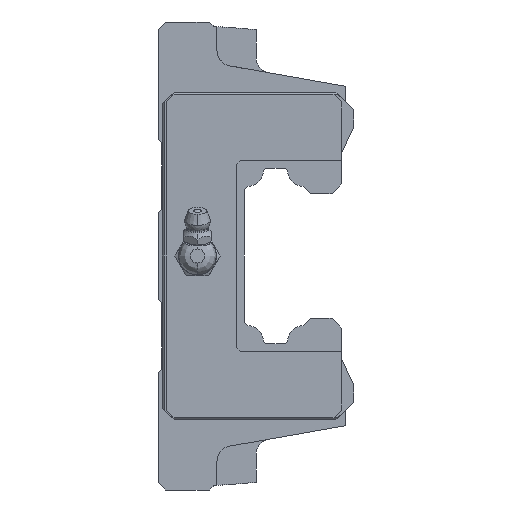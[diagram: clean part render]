
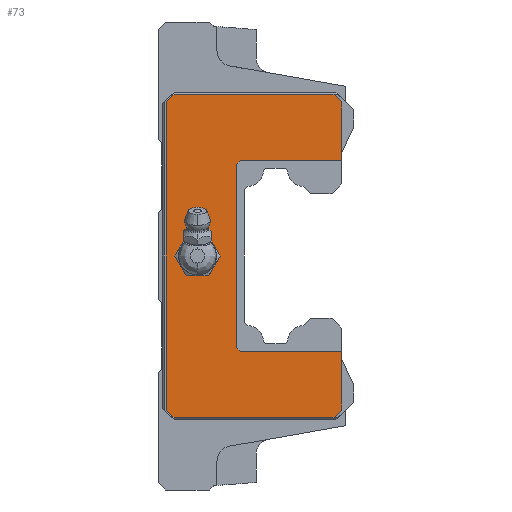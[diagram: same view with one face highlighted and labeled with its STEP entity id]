
A CAD part, left-side view. The second image highlights one B-rep face of the part: STEP entity #73.
In plain terms, the highlighted planar face has unit normal (-1, 0, 0).
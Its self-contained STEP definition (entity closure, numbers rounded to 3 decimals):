
#32 = VERTEX_POINT ( 'NONE', #1576 ) ;
#63 = ORIENTED_EDGE ( 'NONE', *, *, #7303, .T. ) ;
#73 = ADVANCED_FACE ( 'NONE', ( #6264, #7542 ), #3430, .F. ) ;
#134 = CARTESIAN_POINT ( 'NONE',  ( -83.9, 13., 39.5 ) ) ;
#135 = CARTESIAN_POINT ( 'NONE',  ( -83.9, 39., -24.5 ) ) ;
#157 = VERTEX_POINT ( 'NONE', #4794 ) ;
#191 = VERTEX_POINT ( 'NONE', #1657 ) ;
#228 = DIRECTION ( 'NONE',  ( 0., 0., 1. ) ) ;
#293 = VERTEX_POINT ( 'NONE', #5721 ) ;
#340 = VECTOR ( 'NONE', #3112, 1000. ) ;
#352 = ORIENTED_EDGE ( 'NONE', *, *, #7467, .T. ) ;
#375 = VERTEX_POINT ( 'NONE', #618 ) ;
#461 = ORIENTED_EDGE ( 'NONE', *, *, #4361, .T. ) ;
#485 = CARTESIAN_POINT ( 'NONE',  ( -83.9, 58., -39.5 ) ) ;
#618 = CARTESIAN_POINT ( 'NONE',  ( -83.9, 15., -41.5 ) ) ;
#699 = DIRECTION ( 'NONE',  ( 1., 0., 0. ) ) ;
#776 = CARTESIAN_POINT ( 'NONE',  ( -83.9, 15., 41.5 ) ) ;
#804 = EDGE_CURVE ( 'NONE', #5656, #191, #6558, .T. ) ;
#806 = DIRECTION ( 'NONE',  ( 0., 0., -1. ) ) ;
#808 = VECTOR ( 'NONE', #6117, 1000. ) ;
#959 = DIRECTION ( 'NONE',  ( 0., -1., 0. ) ) ;
#1001 = VECTOR ( 'NONE', #6058, 1000. ) ;
#1026 = LINE ( 'NONE', #1587, #5138 ) ;
#1086 = ORIENTED_EDGE ( 'NONE', *, *, #6847, .T. ) ;
#1101 = CARTESIAN_POINT ( 'NONE',  ( -83.9, 15., 41.5 ) ) ;
#1251 = CARTESIAN_POINT ( 'NONE',  ( -83.9, 56., 41.5 ) ) ;
#1350 = ORIENTED_EDGE ( 'NONE', *, *, #3894, .T. ) ;
#1352 = DIRECTION ( 'NONE',  ( 0., 0., -1. ) ) ;
#1393 = LINE ( 'NONE', #134, #808 ) ;
#1411 = CARTESIAN_POINT ( 'NONE',  ( -83.9, 10., 0. ) ) ;
#1515 = AXIS2_PLACEMENT_3D ( 'NONE', #1411, #8160, #2190 ) ;
#1576 = CARTESIAN_POINT ( 'NONE',  ( -83.9, 58., -39.5 ) ) ;
#1587 = CARTESIAN_POINT ( 'NONE',  ( -83.9, 40., 23.5 ) ) ;
#1657 = CARTESIAN_POINT ( 'NONE',  ( -83.9, 40., 23.5 ) ) ;
#1686 = LINE ( 'NONE', #4296, #4986 ) ;
#1731 = DIRECTION ( 'NONE',  ( 0., 1., 0. ) ) ;
#1838 = VERTEX_POINT ( 'NONE', #8633 ) ;
#1866 = CARTESIAN_POINT ( 'NONE',  ( -83.9, 13., -39.5 ) ) ;
#2003 = EDGE_CURVE ( 'NONE', #2888, #1838, #1393, .T. ) ;
#2048 = EDGE_CURVE ( 'NONE', #5179, #293, #7593, .T. ) ;
#2190 = DIRECTION ( 'NONE',  ( 0., 1., 0. ) ) ;
#2318 = CARTESIAN_POINT ( 'NONE',  ( -83.9, 13., 39.5 ) ) ;
#2361 = EDGE_CURVE ( 'NONE', #32, #5865, #5392, .T. ) ;
#2375 = DIRECTION ( 'NONE',  ( 0., -1., 0. ) ) ;
#2506 = DIRECTION ( 'NONE',  ( 0., 0.707, -0.707 ) ) ;
#2645 = CARTESIAN_POINT ( 'NONE',  ( -83.9, 56., -41.5 ) ) ;
#2671 = ORIENTED_EDGE ( 'NONE', *, *, #804, .T. ) ;
#2752 = EDGE_CURVE ( 'NONE', #375, #4478, #6346, .T. ) ;
#2888 = VERTEX_POINT ( 'NONE', #7887 ) ;
#2937 = DIRECTION ( 'NONE',  ( 0., -0.707, 0.707 ) ) ;
#2968 = CARTESIAN_POINT ( 'NONE',  ( -83.9, 13., -24.5 ) ) ;
#3109 = VECTOR ( 'NONE', #228, 1000. ) ;
#3112 = DIRECTION ( 'NONE',  ( 0., 0., -1. ) ) ;
#3132 = ORIENTED_EDGE ( 'NONE', *, *, #2752, .T. ) ;
#3137 = CARTESIAN_POINT ( 'NONE',  ( -83.9, 56., -41.5 ) ) ;
#3428 = CIRCLE ( 'NONE', #5117, 4.864 ) ;
#3430 = PLANE ( 'NONE',  #1515 ) ;
#3441 = VECTOR ( 'NONE', #2375, 1000. ) ;
#3641 = CARTESIAN_POINT ( 'NONE',  ( -83.9, 13., -39.5 ) ) ;
#3663 = CARTESIAN_POINT ( 'NONE',  ( -83.9, 13., -24.5 ) ) ;
#3756 = VECTOR ( 'NONE', #5235, 1000. ) ;
#3778 = DIRECTION ( 'NONE',  ( 0., 0.707, 0.707 ) ) ;
#3894 = EDGE_CURVE ( 'NONE', #293, #5179, #3428, .T. ) ;
#3949 = VECTOR ( 'NONE', #2937, 1000. ) ;
#3958 = LINE ( 'NONE', #5256, #6821 ) ;
#4006 = EDGE_LOOP ( 'NONE', ( #7297, #1350 ) ) ;
#4037 = EDGE_LOOP ( 'NONE', ( #1086, #8519, #7934, #63, #7306, #7676, #5394, #5400, #6398, #3132, #4854, #461, #352, #2671 ) ) ;
#4075 = CARTESIAN_POINT ( 'NONE',  ( -83.9, 50., 0. ) ) ;
#4083 = DIRECTION ( 'NONE',  ( 0., 0.707, 0.707 ) ) ;
#4227 = LINE ( 'NONE', #6446, #3441 ) ;
#4296 = CARTESIAN_POINT ( 'NONE',  ( -83.9, 15., -41.5 ) ) ;
#4361 = EDGE_CURVE ( 'NONE', #8045, #7830, #8404, .T. ) ;
#4439 = CARTESIAN_POINT ( 'NONE',  ( -83.9, 40., -23.5 ) ) ;
#4469 = CARTESIAN_POINT ( 'NONE',  ( -83.9, 40., -23.5 ) ) ;
#4478 = VERTEX_POINT ( 'NONE', #1866 ) ;
#4594 = VERTEX_POINT ( 'NONE', #776 ) ;
#4595 = VERTEX_POINT ( 'NONE', #6861 ) ;
#4761 = DIRECTION ( 'NONE',  ( 1., 0., 0. ) ) ;
#4794 = CARTESIAN_POINT ( 'NONE',  ( -83.9, 58., 39.5 ) ) ;
#4841 = VECTOR ( 'NONE', #5706, 1000. ) ;
#4854 = ORIENTED_EDGE ( 'NONE', *, *, #8612, .T. ) ;
#4907 = AXIS2_PLACEMENT_3D ( 'NONE', #4075, #699, #1352 ) ;
#4930 = VERTEX_POINT ( 'NONE', #1251 ) ;
#4986 = VECTOR ( 'NONE', #959, 1000. ) ;
#5115 = EDGE_CURVE ( 'NONE', #4595, #2888, #4227, .T. ) ;
#5117 = AXIS2_PLACEMENT_3D ( 'NONE', #8123, #4761, #806 ) ;
#5138 = VECTOR ( 'NONE', #6319, 1000. ) ;
#5145 = VECTOR ( 'NONE', #3778, 1000. ) ;
#5179 = VERTEX_POINT ( 'NONE', #8386 ) ;
#5230 = EDGE_CURVE ( 'NONE', #4930, #157, #3958, .T. ) ;
#5235 = DIRECTION ( 'NONE',  ( 0., 0., 1. ) ) ;
#5256 = CARTESIAN_POINT ( 'NONE',  ( -83.9, 58., 39.5 ) ) ;
#5392 = LINE ( 'NONE', #2645, #1001 ) ;
#5394 = ORIENTED_EDGE ( 'NONE', *, *, #5577, .T. ) ;
#5400 = ORIENTED_EDGE ( 'NONE', *, *, #2361, .T. ) ;
#5458 = LINE ( 'NONE', #8061, #5712 ) ;
#5577 = EDGE_CURVE ( 'NONE', #157, #32, #7086, .T. ) ;
#5656 = VERTEX_POINT ( 'NONE', #4439 ) ;
#5706 = DIRECTION ( 'NONE',  ( 0., 1., 0. ) ) ;
#5712 = VECTOR ( 'NONE', #4083, 1000. ) ;
#5721 = CARTESIAN_POINT ( 'NONE',  ( -83.9, 50., -4.864 ) ) ;
#5799 = LINE ( 'NONE', #8449, #6551 ) ;
#5865 = VERTEX_POINT ( 'NONE', #3137 ) ;
#6058 = DIRECTION ( 'NONE',  ( 0., -0.707, -0.707 ) ) ;
#6117 = DIRECTION ( 'NONE',  ( 0., 0., 1. ) ) ;
#6212 = LINE ( 'NONE', #2318, #3109 ) ;
#6264 = FACE_OUTER_BOUND ( 'NONE', #4037, .T. ) ;
#6319 = DIRECTION ( 'NONE',  ( 0., -0.707, 0.707 ) ) ;
#6346 = LINE ( 'NONE', #3641, #3949 ) ;
#6398 = ORIENTED_EDGE ( 'NONE', *, *, #6641, .T. ) ;
#6446 = CARTESIAN_POINT ( 'NONE',  ( -83.9, 39., 24.5 ) ) ;
#6551 = VECTOR ( 'NONE', #1731, 1000. ) ;
#6558 = LINE ( 'NONE', #4469, #3756 ) ;
#6624 = EDGE_CURVE ( 'NONE', #4594, #4930, #5799, .T. ) ;
#6641 = EDGE_CURVE ( 'NONE', #5865, #375, #1686, .T. ) ;
#6821 = VECTOR ( 'NONE', #2506, 1000. ) ;
#6847 = EDGE_CURVE ( 'NONE', #191, #4595, #1026, .T. ) ;
#6861 = CARTESIAN_POINT ( 'NONE',  ( -83.9, 39., 24.5 ) ) ;
#7086 = LINE ( 'NONE', #485, #340 ) ;
#7297 = ORIENTED_EDGE ( 'NONE', *, *, #2048, .T. ) ;
#7303 = EDGE_CURVE ( 'NONE', #1838, #4594, #8501, .T. ) ;
#7306 = ORIENTED_EDGE ( 'NONE', *, *, #6624, .T. ) ;
#7467 = EDGE_CURVE ( 'NONE', #7830, #5656, #5458, .T. ) ;
#7542 = FACE_BOUND ( 'NONE', #4006, .T. ) ;
#7593 = CIRCLE ( 'NONE', #4907, 4.864 ) ;
#7676 = ORIENTED_EDGE ( 'NONE', *, *, #5230, .T. ) ;
#7830 = VERTEX_POINT ( 'NONE', #135 ) ;
#7887 = CARTESIAN_POINT ( 'NONE',  ( -83.9, 13., 24.5 ) ) ;
#7934 = ORIENTED_EDGE ( 'NONE', *, *, #2003, .T. ) ;
#8045 = VERTEX_POINT ( 'NONE', #3663 ) ;
#8061 = CARTESIAN_POINT ( 'NONE',  ( -83.9, 39., -24.5 ) ) ;
#8123 = CARTESIAN_POINT ( 'NONE',  ( -83.9, 50., 0. ) ) ;
#8160 = DIRECTION ( 'NONE',  ( 1., 0., 0. ) ) ;
#8386 = CARTESIAN_POINT ( 'NONE',  ( -83.9, 50., 4.864 ) ) ;
#8404 = LINE ( 'NONE', #2968, #4841 ) ;
#8449 = CARTESIAN_POINT ( 'NONE',  ( -83.9, 56., 41.5 ) ) ;
#8501 = LINE ( 'NONE', #1101, #5145 ) ;
#8519 = ORIENTED_EDGE ( 'NONE', *, *, #5115, .T. ) ;
#8612 = EDGE_CURVE ( 'NONE', #4478, #8045, #6212, .T. ) ;
#8633 = CARTESIAN_POINT ( 'NONE',  ( -83.9, 13., 39.5 ) ) ;
